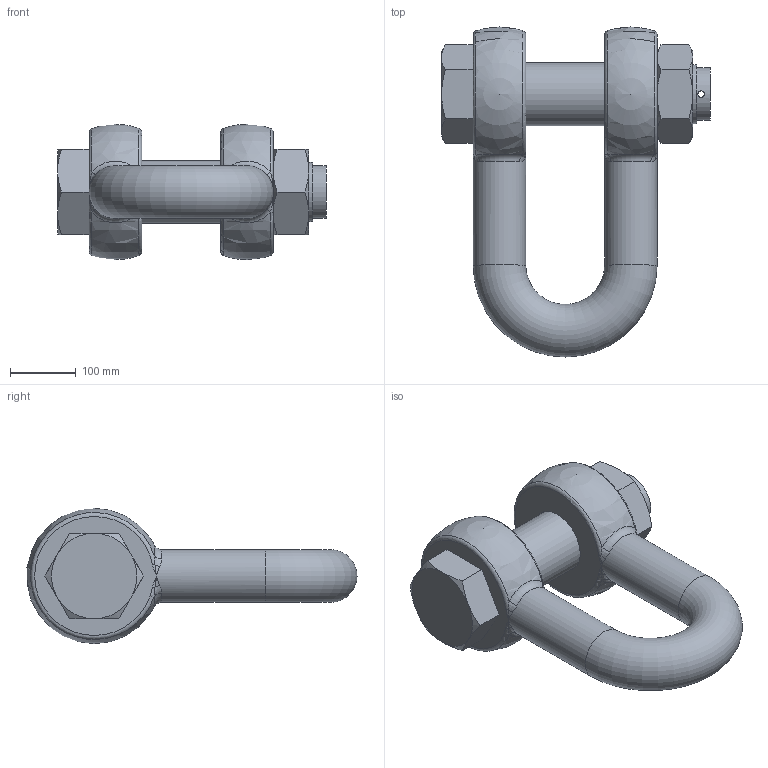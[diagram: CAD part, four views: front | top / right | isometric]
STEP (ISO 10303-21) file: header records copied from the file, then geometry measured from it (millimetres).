
FILE_DESCRIPTION(/* description */ (''),/* implementation_level */ '2;1');
FILE_NAME(/* name */ 'C:\Users\D\Documents\Inventor\HP\吊具\シャックル\SB_2\sb_80.stp',/* time_stamp */ '2024-11-14T11:44:14+09:00',/* author */ ('D'),/* organization */ (''),/* preprocessor_version */ 'ST-DEVELOPER v18',/* originating_system */ 'Autodesk Inventor 2020',/* authorisation */ '');
FILE_SCHEMA (('AUTOMOTIVE_DESIGN { 1 0 10303 214 3 1 1 }'));
Length unit declared in the file: millimetre
Products named in the file (3): sb_80; sb_6; sb_pin_10
Assembly tree (2 placements, depth 2):
  sb_80
    sb_6
    sb_pin_10
Bounding box: 409 x 502.25 x 206 mm (x, y, z)
Volume: 10695650.1 mm3; surface area: 567062.3 mm2
Topology: 2 solids, 2 shells, 85 faces, 219 edges, 121 vertices
Faces by surface type: bspline 24, plane 22, cone 19, cylinder 9, torus 9, sphere 2
Full cylindrical faces by diameter (mm): 10 x1, 80 x3, 90 x2, 96 x1, 98 x2
Entity records: 3334 total; most frequent: CARTESIAN_POINT 1475, ORIENTED_EDGE 398, DIRECTION 339, EDGE_CURVE 199, AXIS2_PLACEMENT_3D 155, VERTEX_POINT 121, EDGE_LOOP 94, CIRCLE 89
